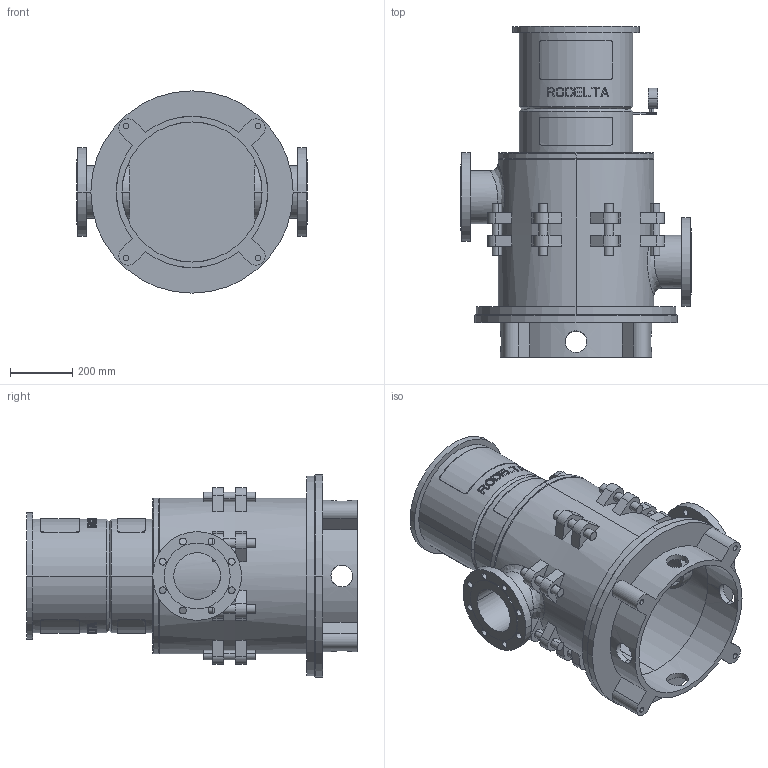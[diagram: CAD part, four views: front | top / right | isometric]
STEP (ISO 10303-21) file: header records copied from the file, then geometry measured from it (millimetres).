
FILE_DESCRIPTION((''),'2;1');
FILE_NAME('LS6_1TR_0GR_TOT_30KW','2023-08-11T',('Lyritlocal'),(''),'PRO/ENGINEER BY PARAMETRIC TECHNOLOGY CORPORATION, 2016360','PRO/ENGINEER BY PARAMETRIC TECHNOLOGY CORPORATION, 2016360','');
FILE_SCHEMA(('CONFIG_CONTROL_DESIGN'));
Length unit declared in the file: millimetre
Products named in the file (1): LS6_1TR_0GR_TOT_30KW
Bounding box: 740 x 1063 x 650 mm (x, y, z)
Volume: 36733942.3 mm3; surface area: 4647415.4 mm2
Topology: 3 solids, 7 shells, 684 faces, 1767 edges, 1174 vertices
Faces by surface type: plane 422, cylinder 242, cone 12, bspline 8
Entity records: 22607 total; most frequent: CARTESIAN_POINT 5995, ORIENTED_EDGE 3518, DIRECTION 3273, EDGE_CURVE 1767, AXIS2_PLACEMENT_3D 1237, VERTEX_POINT 1174, EDGE_LOOP 829, VECTOR 799
